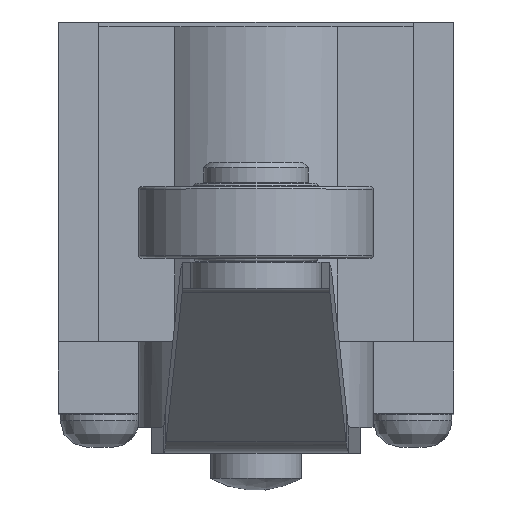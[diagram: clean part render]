
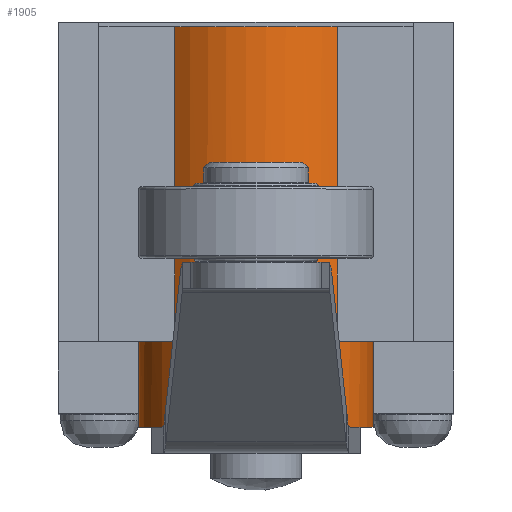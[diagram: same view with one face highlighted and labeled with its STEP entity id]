
A CAD part, top view. The second image highlights one B-rep face of the part: STEP entity #1905.
In plain terms, the highlighted cylindrical face has radius 9 mm (diameter 18 mm), a full revolution.
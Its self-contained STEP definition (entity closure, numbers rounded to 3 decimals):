
#1694=CARTESIAN_POINT('',(4.975,-9.5,63.));
#1695=VERTEX_POINT('',#1694);
#1696=CARTESIAN_POINT('',(-4.975,-9.5,63.));
#1697=VERTEX_POINT('',#1696);
#1698=CARTESIAN_POINT('',(0.,-9.5,70.5));
#1699=DIRECTION('',(0.0,1.0,0.0));
#1700=DIRECTION('',(-1.0,0.0,0.0));
#1701=AXIS2_PLACEMENT_3D('',#1698,#1699,#1700);
#1702=CIRCLE('',#1701,9.0);
#1703=EDGE_CURVE('',#1695,#1697,#1702,.T.);
#1727=CARTESIAN_POINT('',(-6.225,-9.5,77.0));
#1728=VERTEX_POINT('',#1727);
#1729=CARTESIAN_POINT('',(0.,-9.5,70.5));
#1730=DIRECTION('',(0.0,1.0,0.0));
#1731=DIRECTION('',(-1.0,0.0,0.0));
#1732=AXIS2_PLACEMENT_3D('',#1729,#1730,#1731);
#1733=CIRCLE('',#1732,9.0);
#1734=EDGE_CURVE('',#1697,#1728,#1733,.T.);
#1774=CARTESIAN_POINT('',(6.225,-9.5,77.0));
#1775=VERTEX_POINT('',#1774);
#1782=CARTESIAN_POINT('',(0.,-9.5,70.5));
#1783=DIRECTION('',(0.0,1.0,0.0));
#1784=DIRECTION('',(-1.0,0.0,0.0));
#1785=AXIS2_PLACEMENT_3D('',#1782,#1783,#1784);
#1786=CIRCLE('',#1785,9.0);
#1787=EDGE_CURVE('',#1775,#1695,#1786,.T.);
#1844=CARTESIAN_POINT('',(-6.225,14.6,77.));
#1845=VERTEX_POINT('',#1844);
#1852=CARTESIAN_POINT('',(6.225,14.6,77.));
#1853=VERTEX_POINT('',#1852);
#1854=CARTESIAN_POINT('',(0.,14.6,70.5));
#1855=DIRECTION('',(0.0,-1.0,0.0));
#1856=DIRECTION('',(-1.0,0.0,0.0));
#1857=AXIS2_PLACEMENT_3D('',#1854,#1855,#1856);
#1858=CIRCLE('',#1857,9.0);
#1859=EDGE_CURVE('',#1853,#1845,#1858,.T.);
#1871=CARTESIAN_POINT('',(0.,-9.5,70.5));
#1872=DIRECTION('',(0.0,-1.0,0.0));
#1873=DIRECTION('',(-1.0,0.0,0.0));
#1874=AXIS2_PLACEMENT_3D('',#1871,#1872,#1873);
#1875=CYLINDRICAL_SURFACE('',#1874,9.0);
#1876=CARTESIAN_POINT('',(6.225,14.6,77.));
#1877=DIRECTION('',(0.0,-1.0,0.0));
#1878=VECTOR('',#1877,24.1);
#1879=LINE('',#1876,#1878);
#1880=EDGE_CURVE('',#1853,#1775,#1879,.T.);
#1881=ORIENTED_EDGE('',*,*,#1880,.F.);
#1882=ORIENTED_EDGE('',*,*,#1859,.T.);
#1883=CARTESIAN_POINT('',(-6.225,-9.5,77.));
#1884=DIRECTION('',(0.0,1.0,0.0));
#1885=VECTOR('',#1884,24.1);
#1886=LINE('',#1883,#1885);
#1887=EDGE_CURVE('',#1728,#1845,#1886,.T.);
#1888=ORIENTED_EDGE('',*,*,#1887,.F.);
#1889=ORIENTED_EDGE('',*,*,#1734,.F.);
#1890=ORIENTED_EDGE('',*,*,#1703,.F.);
#1891=ORIENTED_EDGE('',*,*,#1787,.F.);
#1892=EDGE_LOOP('',(#1881,#1882,#1888,#1889,#1890,#1891));
#1893=FACE_OUTER_BOUND('',#1892,.T.);
#1894=CARTESIAN_POINT('',(9.,-16.1,70.5));
#1895=VERTEX_POINT('',#1894);
#1896=CARTESIAN_POINT('',(0.,-16.1,70.5));
#1897=DIRECTION('',(0.0,1.0,0.0));
#1898=DIRECTION('',(-1.0,0.0,0.0));
#1899=AXIS2_PLACEMENT_3D('',#1896,#1897,#1898);
#1900=CIRCLE('',#1899,9.0);
#1901=EDGE_CURVE('',#1895,#1895,#1900,.T.);
#1902=ORIENTED_EDGE('',*,*,#1901,.T.);
#1903=EDGE_LOOP('',(#1902));
#1904=FACE_BOUND('',#1903,.T.);
#1905=ADVANCED_FACE('',(#1893,#1904),#1875,.T.);
